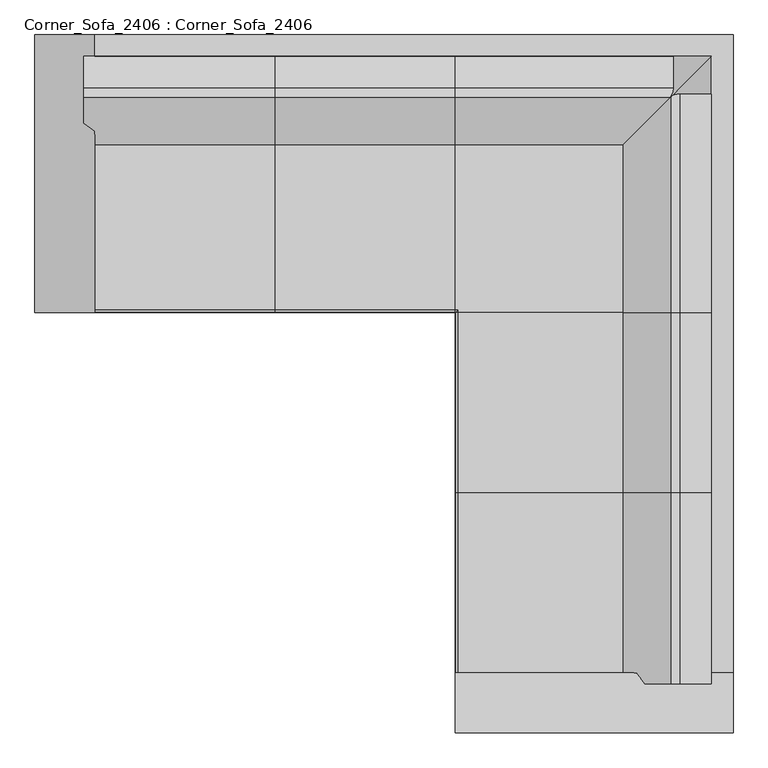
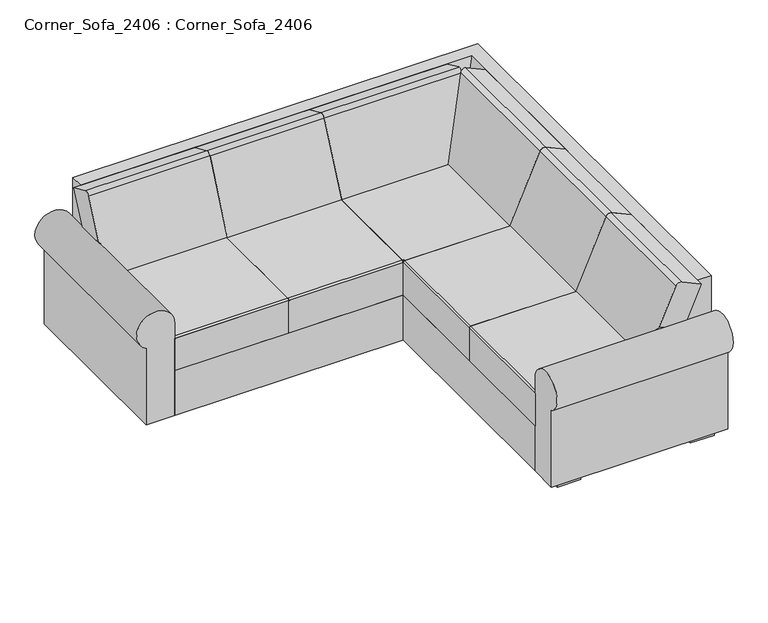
"""IFC4 building model written with IfcOpenShell, lengths in millimetres: furniture geometry, Corner_Sofa_2406 : Corner_Sofa_2406."""

from ifc_helpers import new_model, si_unit, point, frame, frame_2d, origin, origin_with_axes, place, context, project, spatial, polyline, circle_curve, ellipse_curve, trimmed, segment, composite_curve, outline, extrude, faceted_brep, source, transform, mapped, element, save
from ifc_brep_helpers import plane_surface, cylinder_surface, advanced_brep


def corner_sofa_2406_corner_sofa_2406_fdd71140(model_context):
    return source(origin(), model_context, "Body", "SolidModel", [
        extrude(outline(polyline([(-1068.5682719, -892.1095227), (-1195.5682719, -892.1095227), (-1195.5682719, -765.1095227), (-1068.5682719, -765.1095227), (-1068.5682719, -892.1095227)])), origin_with_axes(), (0.0, 0.0, 1.0), 50.8),
        extrude(outline(polyline([(-1068.5682719, -180.9095227), (-1195.5682719, -180.9095227), (-1195.5682719, -53.9095227), (-1068.5682719, -53.9095227), (-1068.5682719, -180.9095227)])), origin_with_axes(), (0.0, 0.0, 1.0), 50.8),
        extrude(outline(polyline([(900.5669616, -892.1095227), (900.5669616, -765.1095227), (1027.5669616, -765.1095227), (1027.5669616, -892.1095227), (900.5669616, -892.1095227)])), origin_with_axes(), (0.0, 0.0, 1.0), 50.8),
        extrude(outline(polyline([(900.5669616, -180.9095227), (900.5669616, -53.9095227), (1027.5669616, -53.9095227), (1027.5669616, -180.9095227), (900.5669616, -180.9095227)])), origin_with_axes(), (0.0, 0.0, 1.0), 50.8),
        extrude(outline(polyline([(189.3669616, -2150.0447561), (316.3669616, -2150.0447561), (316.3669616, -2277.0447561), (189.3669616, -2277.0447561), (189.3669616, -2150.0447561)])), origin_with_axes(), (0.0, 0.0, 1.0), 50.8),
        extrude(outline(polyline([(900.5669616, -2150.0447561), (1027.5669616, -2150.0447561), (1027.5669616, -2277.0447561), (900.5669616, -2277.0447561), (900.5669616, -2150.0447561)])), origin_with_axes(), (0.0, 0.0, 1.0), 50.8),
        extrude(outline(polyline([(189.3669616, -981.6447561), (316.3669616, -981.6447561), (316.3669616, -1108.6447561), (189.3669616, -1108.6447561), (189.3669616, -981.6447561)])), origin_with_axes(), (0.0, 0.0, 1.0), 50.8),
        extrude(outline(polyline([(900.5669616, -981.6447561), (1027.5669616, -981.6447561), (1027.5669616, -1108.6447561), (900.5669616, -1108.6447561), (900.5669616, -981.6447561)])), origin_with_axes(), (0.0, 0.0, 1.0), 50.8),
        advanced_brep(
        [(708.2115105, -370.9615105, 486.2298964), (708.2115105, -939.8, 486.2298964), (868.5771653, -939.8, 846.4170544), (869.4079619, -939.8, 848.2830543), (869.4079619, -210.0920381, 848.2830543), (870.5407312, -208.6322897, 850.8272957), (1006.5305764, -939.8, 812.8), (835.8338109, -939.8, 429.4087874), (835.8338109, -370.9615105, 429.4087874), (1006.5305764, -200.2647449, 812.8), (902.1123306, -200.2647449, 859.2899983), (900.2463308, -200.2647449, 860.120795), (900.2463308, -939.8, 860.120795), (902.1123306, -939.8, 859.2899983), (871.062652, -208.437348, 851.1195615)],
        [
            (0, 1),
            (1, 2),
            (2, 3),
            (3, 4),
            (4, 5, ellipse_curve(frame((864.577804, -188.2363817, 837.4343419), z_axis=(-0.9135454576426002, 0.0, 0.40673664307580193), x_axis=(0.40673664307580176, 0.0, 0.9135454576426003)), 26.7092211, 24.4000876)),
            (5, 0),
            (6, 7),
            (7, 8),
            (8, 9),
            (9, 6),
            (9, 10),
            (10, 11),
            (11, 12),
            (12, 13),
            (13, 6),
            (8, 0),
            (5, 14, ellipse_curve(frame((1023.9085595, -188.2363817, 837.4343419), z_axis=(-0.1532436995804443, 0.9263093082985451, -0.34419098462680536), x_axis=(0.9881884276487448, 0.14364777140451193, -0.05337554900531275)), 159.2240834, 24.4000876)),
            (14, 11, ellipse_curve(frame((891.2636183, -210.1804573, 837.4343419), z_axis=(-0.1532436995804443, 0.9263093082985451, -0.34419098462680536), x_axis=(-0.3767639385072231, -0.3767639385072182, -0.8462256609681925)), 26.341188, 24.4000876)),
            (7, 1),
            (12, 3, circle_curve(frame((891.2636183, -939.8, 837.4343419), z_axis=(0.0, -1.0, 0.0), x_axis=(-1.0, 0.0, 0.0)), 24.4000876)),
            (4, 14, ellipse_curve(frame((891.2636183, -188.2363817, 837.4343419), z_axis=(-0.7071067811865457, 0.7071067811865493, 0.0), x_axis=(0.7071067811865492, 0.7071067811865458, 0.0)), 34.5069348, 24.4000876)),
        ],
        [
            plane_surface(frame((878.908276, -329.4137794, 869.621109), z_axis=(-0.9135454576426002, 0.0, 0.40673664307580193), x_axis=(0.0, 1.0, 0.0))),
            plane_surface(frame((1006.5305764, -329.4137794, 812.8), z_axis=(0.9135454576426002, 0.0, -0.40673664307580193), x_axis=(0.0, -1.0, 0.0))),
            plane_surface(frame((878.908276, -939.8, 869.621109), z_axis=(0.4067366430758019, 0.0, 0.9135454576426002), x_axis=(0.9135454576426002, 0.0, -0.4067366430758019))),
            plane_surface(frame((878.908276, -200.2647449, 869.621109), z_axis=(-0.1532436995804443, 0.9263093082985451, -0.34419098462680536), x_axis=(0.9135454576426, 0.0, -0.4067366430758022))),
            plane_surface(frame((708.2115105, -370.9615105, 486.2298964), z_axis=(-0.4067366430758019, 0.0, -0.9135454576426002), x_axis=(0.9135454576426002, 0.0, -0.4067366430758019))),
            plane_surface(frame((708.2115105, -939.8, 486.2298964), z_axis=(0.0, -1.0000000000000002, 0.0), x_axis=(0.9135454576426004, 0.0, -0.40673664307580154))),
            cylinder_surface(frame((-1116.8137794, -188.2363817, 837.4343419), z_axis=(1.0, 0.0, 0.0), x_axis=(0.0, -1.0, 0.0)), 24.4000876),
            cylinder_surface(frame((891.2636183, -200.591724, 837.4343419), z_axis=(0.0, -1.0, 0.0), x_axis=(-1.0, 0.0, 0.0)), 24.4000876),
        ],
        [
            (0, [[1, 2, 3, 4, 5, 6]]),
            (1, [[7, 8, 9, 10]]),
            (2, [[-10, 11, 12, 13, 14, 15]]),
            (3, [[-9, 16, -6, 17, 18, -12, -11]]),
            (4, [[-1, -16, -8, 19]]),
            (5, [[-7, -15, -14, 20, -3, -2, -19]]),
            (6, [[21, -17, -5]]),
            (7, [[-21, -4, -20, -13, -18]]),
        ],
    ),
        advanced_brep(
        [(708.2115105, -939.0137794, 486.2298964), (708.2115105, -1549.4, 486.2298964), (868.5771653, -1549.4, 846.4170544), (869.4079619, -1549.4, 848.2830543), (869.4079619, -939.0137794, 848.2830543), (868.5771653, -939.0137794, 846.4170544), (1006.5305764, -939.0137794, 812.8), (1006.5305764, -1549.4, 812.8), (835.8338109, -1549.4, 429.4087874), (835.8338109, -939.0137794, 429.4087874), (900.2463308, -939.0137794, 860.120795), (902.1123306, -939.0137794, 859.2899983), (902.1123306, -1549.4, 859.2899983), (900.2463308, -1549.4, 860.120795)],
        [
            (0, 1),
            (1, 2),
            (2, 3),
            (3, 4),
            (4, 5),
            (5, 0),
            (6, 7),
            (7, 8),
            (8, 9),
            (9, 6),
            (9, 0),
            (4, 10, circle_curve(frame((891.2636183, -939.0137794, 837.4343419), z_axis=(0.0, 1.0, 0.0), x_axis=(-1.0, 0.0, 0.0)), 24.4000876)),
            (10, 11),
            (11, 6),
            (8, 1),
            (7, 12),
            (12, 13),
            (13, 3, circle_curve(frame((891.2636183, -1549.4, 837.4343419), z_axis=(0.0, -1.0, 0.0), x_axis=(-1.0, 0.0, 0.0)), 24.4000876)),
            (10, 13),
        ],
        [
            plane_surface(frame((708.2115105, -939.0137794, 486.2298964), z_axis=(-0.9135454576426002, 0.0, 0.40673664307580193), x_axis=(-0.40673664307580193, 0.0, -0.9135454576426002))),
            plane_surface(frame((835.8338109, -939.0137794, 429.4087874), z_axis=(0.9135454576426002, 0.0, -0.40673664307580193), x_axis=(0.40673664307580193, 0.0, 0.9135454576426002))),
            plane_surface(frame((878.908276, -939.0137794, 869.621109), z_axis=(0.0, 1.0, 0.0), x_axis=(0.9135454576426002, 0.0, -0.4067366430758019))),
            plane_surface(frame((708.2115105, -939.0137794, 486.2298964), z_axis=(-0.4067366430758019, 0.0, -0.9135454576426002), x_axis=(0.9135454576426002, 0.0, -0.4067366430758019))),
            plane_surface(frame((708.2115105, -1549.4, 486.2298964), z_axis=(0.0, -1.0, 0.0), x_axis=(0.9135454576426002, 0.0, -0.4067366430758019))),
            plane_surface(frame((878.908276, -1549.4, 869.621109), z_axis=(0.40673664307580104, 0.0, 0.9135454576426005), x_axis=(0.9135454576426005, 0.0, -0.40673664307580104))),
            cylinder_surface(frame((891.2636183, -200.591724, 837.4343419), z_axis=(0.0, -1.0, 0.0), x_axis=(-1.0, 0.0, 0.0)), 24.4000876),
        ],
        [
            (0, [[1, 2, 3, 4, 5, 6]]),
            (1, [[7, 8, 9, 10]]),
            (2, [[-10, 11, -6, -5, 12, 13, 14]]),
            (3, [[-1, -11, -9, 15]]),
            (4, [[-8, 16, 17, 18, -3, -2, -15]]),
            (5, [[-7, -14, -13, 19, -17, -16]]),
            (6, [[-4, -18, -19, -12]]),
        ],
    ),
        advanced_brep(
        [(708.2115105, -1548.6137794, 486.2298964), (708.2115105, -2159.0, 486.2298964), (754.2421559, -2159.0, 589.6164189), (780.5292856, -2196.3137794, 648.6582788), (868.5771653, -2196.3137794, 846.4170544), (869.4079619, -2196.3137794, 848.2830543), (869.4079619, -1548.6137794, 848.2830543), (868.5771653, -1548.6137794, 846.4170544), (1006.5305764, -1548.6137794, 812.8), (1006.5305764, -2196.3137794, 812.8), (908.151586, -2196.3137794, 591.8371697), (881.8644564, -2159.0, 532.7953098), (835.8338109, -2159.0, 429.4087874), (835.8338109, -1548.6137794, 429.4087874), (900.2463308, -1548.6137794, 860.120795), (902.1123306, -1548.6137794, 859.2899983), (902.1123306, -2196.3137794, 859.2899983), (900.2463308, -2196.3137794, 860.120795)],
        [
            (0, 1),
            (1, 2),
            (2, 3),
            (3, 4),
            (4, 5),
            (5, 6),
            (6, 7),
            (7, 0),
            (8, 9),
            (9, 10),
            (10, 11),
            (11, 12),
            (12, 13),
            (13, 8),
            (13, 0),
            (6, 14, circle_curve(frame((891.2636183, -1548.6137794, 837.4343419), z_axis=(0.0, 1.0, 0.0), x_axis=(-1.0, 0.0, 0.0)), 24.4000876)),
            (14, 15),
            (15, 8),
            (12, 1),
            (11, 2),
            (10, 3),
            (9, 16),
            (16, 17),
            (17, 5, circle_curve(frame((891.2636183, -2196.3137794, 837.4343419), z_axis=(0.0, -1.0, 0.0), x_axis=(-1.0, 0.0, 0.0)), 24.4000876)),
            (14, 17),
        ],
        [
            plane_surface(frame((708.2115105, -1548.6137794, 486.2298964), z_axis=(-0.9135454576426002, 0.0, 0.40673664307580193), x_axis=(-0.40673664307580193, 0.0, -0.9135454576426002))),
            plane_surface(frame((835.8338109, -1548.6137794, 429.4087874), z_axis=(0.9135454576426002, 0.0, -0.40673664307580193), x_axis=(0.40673664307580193, 0.0, 0.9135454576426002))),
            plane_surface(frame((878.908276, -1548.6137794, 869.621109), z_axis=(0.0, 1.0, 0.0), x_axis=(0.9135454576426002, 0.0, -0.4067366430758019))),
            plane_surface(frame((708.2115105, -1548.6137794, 486.2298964), z_axis=(-0.4067366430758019, 0.0, -0.9135454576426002), x_axis=(0.9135454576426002, 0.0, -0.4067366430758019))),
            plane_surface(frame((708.2115105, -2159.0, 486.2298964), z_axis=(0.0, -1.0, 0.0), x_axis=(0.9135454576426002, 0.0, -0.4067366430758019))),
            plane_surface(frame((754.2421559, -2159.0, 589.6164189), z_axis=(-0.20336832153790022, -0.8660254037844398, -0.4567727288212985), x_axis=(0.9135454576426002, 0.0, -0.4067366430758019))),
            plane_surface(frame((780.5292856, -2196.3137794, 648.6582788), z_axis=(0.0, -1.0, 0.0), x_axis=(0.9135454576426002, 0.0, -0.4067366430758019))),
            plane_surface(frame((878.908276, -2196.3137794, 869.621109), z_axis=(0.4067366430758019, 0.0, 0.9135454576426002), x_axis=(0.9135454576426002, 0.0, -0.4067366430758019))),
            cylinder_surface(frame((891.2636183, -200.591724, 837.4343419), z_axis=(0.0, -1.0, 0.0), x_axis=(-1.0, 0.0, 0.0)), 24.4000876),
        ],
        [
            (0, [[1, 2, 3, 4, 5, 6, 7, 8]]),
            (1, [[9, 10, 11, 12, 13, 14]]),
            (2, [[-14, 15, -8, -7, 16, 17, 18]]),
            (3, [[-1, -15, -13, 19]]),
            (4, [[-2, -19, -12, 20]]),
            (5, [[-3, -20, -11, 21]]),
            (6, [[-10, 22, 23, 24, -5, -4, -21]]),
            (7, [[-9, -18, -17, 25, -23, -22]]),
            (8, [[-6, -24, -25, -16]]),
        ],
    ),
        advanced_brep(
        [(139.7, -371.2884895, 486.2298964), (706.2350262, -371.2884895, 486.2298964), (866.600681, -210.9228347, 846.4170544), (867.4314777, -210.0920381, 848.2830543), (139.7, -210.0920381, 848.2830543), (139.7, -210.9228347, 846.4170544), (139.7, -72.9694236, 812.8), (876.9317918, -72.9694236, 812.8), (706.2350262, -243.6661891, 429.4087874), (139.7, -243.6661891, 429.4087874), (139.7, -179.2536692, 860.120795), (139.7, -177.3876694, 859.2899983), (876.9317918, -177.3876694, 859.2899983), (876.9317918, -179.2536692, 860.120795)],
        [
            (0, 1),
            (1, 2),
            (2, 3),
            (3, 4),
            (4, 5),
            (5, 0),
            (6, 7),
            (7, 8),
            (8, 9),
            (9, 6),
            (9, 0),
            (4, 10, circle_curve(frame((139.7, -188.2363817, 837.4343419), z_axis=(-1.0, 0.0, 0.0), x_axis=(0.0, -1.0, 0.0)), 24.4000876)),
            (10, 11),
            (11, 6),
            (8, 1),
            (7, 12),
            (12, 13),
            (13, 3, ellipse_curve(frame((867.0160793, -188.2363817, 837.4343419), z_axis=(0.9263093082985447, -0.15324369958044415, -0.34419098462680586), x_axis=(0.3767639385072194, 0.37676393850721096, 0.8462256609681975)), 26.341188, 24.4000876)),
            (10, 13),
        ],
        [
            plane_surface(frame((139.7, -325.2578441, 589.6164189), z_axis=(0.0, -0.9135454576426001, 0.40673664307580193), x_axis=(0.0, -0.40673664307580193, -0.9135454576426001))),
            plane_surface(frame((139.7, -197.6355436, 532.7953098), z_axis=(0.0, 0.9135454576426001, -0.40673664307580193), x_axis=(0.0, 0.40673664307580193, 0.9135454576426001))),
            plane_surface(frame((139.7, -200.591724, 869.621109), z_axis=(-1.0000000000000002, 0.0, 0.0), x_axis=(0.0, 0.9135454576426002, -0.406736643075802))),
            plane_surface(frame((139.7, -371.2884895, 486.2298964), z_axis=(0.0, -0.406736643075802, -0.9135454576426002), x_axis=(0.0, 0.9135454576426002, -0.406736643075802))),
            plane_surface(frame((706.2350262, -371.2884895, 486.2298964), z_axis=(0.926309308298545, -0.15324369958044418, -0.3441909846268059), x_axis=(0.0, 0.9135454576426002, -0.406736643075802))),
            plane_surface(frame((876.9317918, -200.591724, 869.621109), z_axis=(0.0, 0.406736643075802, 0.9135454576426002), x_axis=(0.0, 0.9135454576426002, -0.406736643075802))),
            cylinder_surface(frame((-1116.8137794, -188.2363817, 837.4343419), z_axis=(1.0, 0.0, 0.0), x_axis=(0.0, -1.0, 0.0)), 24.4000876),
        ],
        [
            (0, [[1, 2, 3, 4, 5, 6]]),
            (1, [[7, 8, 9, 10]]),
            (2, [[-10, 11, -6, -5, 12, 13, 14]]),
            (3, [[-1, -11, -9, 15]]),
            (4, [[-8, 16, 17, 18, -3, -2, -15]]),
            (5, [[-7, -14, -13, 19, -17, -16]]),
            (6, [[-4, -18, -19, -12]]),
        ],
    ),
        advanced_brep(
        [(-469.9, -371.2884895, 486.2298964), (140.4862206, -371.2884895, 486.2298964), (140.4862206, -210.9228347, 846.4170544), (140.4862206, -210.0920381, 848.2830543), (-469.9, -210.0920381, 848.2830543), (-469.9, -210.9228347, 846.4170544), (140.4862206, -72.9694236, 812.8), (140.4862206, -243.6661891, 429.4087874), (-469.9, -243.6661891, 429.4087874), (-469.9, -72.9694236, 812.8), (-469.9, -177.3876694, 859.2899983), (-469.9, -179.2536692, 860.120795), (140.4862206, -179.2536692, 860.120795), (140.4862206, -177.3876694, 859.2899983)],
        [
            (0, 1),
            (1, 2),
            (2, 3),
            (3, 4),
            (4, 5),
            (5, 0),
            (6, 7),
            (7, 8),
            (8, 9),
            (9, 6),
            (9, 10),
            (10, 11),
            (11, 12),
            (12, 13),
            (13, 6),
            (8, 0),
            (4, 11, circle_curve(frame((-469.9, -188.2363817, 837.4343419), z_axis=(-1.0, 0.0, 0.0), x_axis=(0.0, -1.0, 0.0)), 24.4000876)),
            (7, 1),
            (12, 3, circle_curve(frame((140.4862206, -188.2363817, 837.4343419), z_axis=(1.0, 0.0, 0.0), x_axis=(0.0, -1.0, 0.0)), 24.4000876)),
        ],
        [
            plane_surface(frame((140.4862206, -200.591724, 869.621109), z_axis=(0.0, -0.9135454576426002, 0.40673664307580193), x_axis=(-1.0, 0.0, 0.0))),
            plane_surface(frame((140.4862206, -72.9694236, 812.8), z_axis=(0.0, 0.9135454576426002, -0.40673664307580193), x_axis=(1.0, 0.0, 0.0))),
            plane_surface(frame((140.4862206, -200.591724, 869.621109), z_axis=(0.0, 0.4067366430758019, 0.9135454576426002), x_axis=(0.0, 0.9135454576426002, -0.4067366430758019))),
            plane_surface(frame((-469.9, -200.591724, 869.621109), z_axis=(-1.0, 0.0, 0.0), x_axis=(0.0, 0.9135454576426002, -0.4067366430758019))),
            plane_surface(frame((-469.9, -371.2884895, 486.2298964), z_axis=(0.0, -0.4067366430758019, -0.9135454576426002), x_axis=(0.0, 0.9135454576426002, -0.4067366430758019))),
            plane_surface(frame((140.4862206, -371.2884895, 486.2298964), z_axis=(1.0, 0.0, 0.0), x_axis=(0.0, 0.9135454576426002, -0.4067366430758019))),
            cylinder_surface(frame((-1116.8137794, -188.2363817, 837.4343419), z_axis=(1.0, 0.0, 0.0), x_axis=(0.0, -1.0, 0.0)), 24.4000876),
        ],
        [
            (0, [[1, 2, 3, 4, 5, 6]]),
            (1, [[7, 8, 9, 10]]),
            (2, [[-10, 11, 12, 13, 14, 15]]),
            (3, [[-9, 16, -6, -5, 17, -12, -11]]),
            (4, [[-1, -16, -8, 18]]),
            (5, [[-7, -15, -14, 19, -3, -2, -18]]),
            (6, [[-4, -19, -13, -17]]),
        ],
    ),
        advanced_brep(
        [(-1116.8137794, -298.9707144, 648.6582788), (-1079.5, -325.2578441, 589.6164189), (-1079.5, -371.2884895, 486.2298964), (-469.1137794, -371.2884895, 486.2298964), (-469.1137794, -210.9228347, 846.4170544), (-469.1137794, -210.0920381, 848.2830543), (-1116.8137794, -210.0920381, 848.2830543), (-1116.8137794, -210.9228347, 846.4170544), (-469.1137794, -72.9694236, 812.8), (-469.1137794, -243.6661891, 429.4087874), (-1079.5, -243.6661891, 429.4087874), (-1079.5, -197.6355436, 532.7953098), (-1116.8137794, -171.348414, 591.8371697), (-1116.8137794, -72.9694236, 812.8), (-1116.8137794, -177.3876694, 859.2899983), (-1116.8137794, -179.2536692, 860.120795), (-469.1137794, -179.2536692, 860.120795), (-469.1137794, -177.3876694, 859.2899983)],
        [
            (0, 1),
            (1, 2),
            (2, 3),
            (3, 4),
            (4, 5),
            (5, 6),
            (6, 7),
            (7, 0),
            (8, 9),
            (9, 10),
            (10, 11),
            (11, 12),
            (12, 13),
            (13, 8),
            (13, 14),
            (14, 15),
            (15, 16),
            (16, 17),
            (17, 8),
            (12, 0),
            (6, 15, circle_curve(frame((-1116.8137794, -188.2363817, 837.4343419), z_axis=(-1.0, 0.0, 0.0), x_axis=(0.0, -1.0, 0.0)), 24.4000876)),
            (11, 1),
            (10, 2),
            (9, 3),
            (16, 5, circle_curve(frame((-469.1137794, -188.2363817, 837.4343419), z_axis=(1.0, 0.0, 0.0), x_axis=(0.0, -1.0, 0.0)), 24.4000876)),
        ],
        [
            plane_surface(frame((-469.1137794, -200.591724, 869.621109), z_axis=(0.0, -0.9135454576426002, 0.40673664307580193), x_axis=(-1.0, 0.0, 0.0))),
            plane_surface(frame((-469.1137794, -72.9694236, 812.8), z_axis=(0.0, 0.9135454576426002, -0.40673664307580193), x_axis=(1.0, 0.0, 0.0))),
            plane_surface(frame((-469.1137794, -200.591724, 869.621109), z_axis=(0.0, 0.4067366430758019, 0.9135454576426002), x_axis=(0.0, 0.9135454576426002, -0.4067366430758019))),
            plane_surface(frame((-1116.8137794, -200.591724, 869.621109), z_axis=(-1.0, 0.0, 0.0), x_axis=(0.0, 0.9135454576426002, -0.4067366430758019))),
            plane_surface(frame((-1116.8137794, -298.9707144, 648.6582788), z_axis=(-0.866025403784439, -0.20336832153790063, -0.45677272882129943), x_axis=(0.0, 0.9135454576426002, -0.4067366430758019))),
            plane_surface(frame((-1079.5, -325.2578441, 589.6164189), z_axis=(-1.0, 0.0, 0.0), x_axis=(0.0, 0.9135454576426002, -0.4067366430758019))),
            plane_surface(frame((-1079.5, -371.2884895, 486.2298964), z_axis=(0.0, -0.40673664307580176, -0.9135454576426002), x_axis=(0.0, 0.9135454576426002, -0.40673664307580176))),
            plane_surface(frame((-469.1137794, -371.2884895, 486.2298964), z_axis=(1.0, 0.0, 0.0), x_axis=(0.0, 0.9135454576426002, -0.4067366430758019))),
            cylinder_surface(frame((-1116.8137794, -188.2363817, 837.4343419), z_axis=(1.0, 0.0, 0.0), x_axis=(0.0, -1.0, 0.0)), 24.4000876),
        ],
        [
            (0, [[1, 2, 3, 4, 5, 6, 7, 8]]),
            (1, [[9, 10, 11, 12, 13, 14]]),
            (2, [[-14, 15, 16, 17, 18, 19]]),
            (3, [[-13, 20, -8, -7, 21, -16, -15]]),
            (4, [[-1, -20, -12, 22]]),
            (5, [[-2, -22, -11, 23]]),
            (6, [[-3, -23, -10, 24]]),
            (7, [[-9, -19, -18, 25, -5, -4, -24]]),
            (8, [[-6, -25, -17, -21]]),
        ],
    ),
        extrude(outline(composite_curve([segment(polyline([(292.1, 139.7), (292.1, 749.3), (482.6, 749.3), (482.6, 148.8937864)]), True, "CONTINUOUS"), segment(trimmed(circle_curve(frame_2d((470.460651, 152.6255696)), 12.7), [point((482.6, 148.8937864))], [point((474.1924341, 140.4862206))], False, "CARTESIAN"), True, "CONTINUOUS"), segment(polyline([(474.1924341, 140.4862206), (474.1924341, 139.7), (292.1, 139.7)]), True, "CONTINUOUS")], self_intersect=False)), frame((0.0, -1549.4, 0.0), z_axis=(0.0, 1.0, 0.0), x_axis=(0.0, 0.0, 1.0)), (0.0, 0.0, 1.0), 609.6),
        extrude(outline(composite_curve([segment(polyline([(292.1, 139.7), (292.1, 749.3), (482.6, 749.3), (482.6, 148.8937864)]), True, "CONTINUOUS"), segment(trimmed(circle_curve(frame_2d((470.460651, 152.6255696)), 12.7), [point((482.6, 148.8937864))], [point((474.1924341, 140.4862206))], False, "CARTESIAN"), True, "CONTINUOUS"), segment(polyline([(474.1924341, 140.4862206), (474.1924341, 139.7), (292.1, 139.7)]), True, "CONTINUOUS")], self_intersect=False)), frame((0.0, -2159.0, 0.0), z_axis=(0.0, 1.0, 0.0), x_axis=(0.0, 0.0, 1.0)), (0.0, 0.0, 1.0), 609.6),
        advanced_brep(
        [(749.3, -939.8, 482.6), (749.3, -330.2, 482.6), (139.7, -330.2, 482.6), (139.7, -930.6062136, 482.6), (148.8937864, -930.6062136, 482.6), (148.8937864, -939.8, 482.6), (749.3, -939.8, 292.1), (139.7, -939.8, 292.1), (139.7, -330.2, 292.1), (749.3, -330.2, 292.1), (139.7, -939.8, 474.1924341), (139.7, -939.0137794, 474.1924341), (140.4862206, -939.8, 474.1924341), (140.4862206, -939.0137794, 474.1924341)],
        [
            (0, 1),
            (1, 2),
            (2, 3),
            (3, 4),
            (4, 5),
            (5, 0),
            (6, 7),
            (7, 8),
            (8, 9),
            (9, 6),
            (0, 6),
            (9, 1),
            (8, 2),
            (7, 10),
            (10, 11),
            (11, 3, circle_curve(frame((139.7, -926.8744304, 470.460651), z_axis=(-1.0, 0.0, 0.0), x_axis=(0.0, -1.0, 0.0)), 12.7)),
            (5, 12, circle_curve(frame((152.6255696, -939.8, 470.460651), z_axis=(0.0, -1.0, 0.0), x_axis=(-1.0, 0.0, 0.0)), 12.7)),
            (12, 10),
            (13, 4, ellipse_curve(frame((152.6255696, -926.8744304, 470.460651), z_axis=(-0.7071067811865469, 0.7071067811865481, 0.0), x_axis=(0.7071067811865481, 0.7071067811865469, 0.0)), 17.9605122, 12.7)),
            (11, 13),
            (12, 13),
        ],
        [
            plane_surface(frame((749.3, -939.8, 482.6), z_axis=(0.0, 0.0, 1.0), x_axis=(0.0, 1.0, 0.0))),
            plane_surface(frame((749.3, -939.8, 292.1), z_axis=(0.0, 0.0, -1.0), x_axis=(0.0, -1.0, 0.0))),
            plane_surface(frame((749.3, -939.8, 482.6), z_axis=(1.0, 0.0, 0.0), x_axis=(0.0, 0.0, -1.0))),
            plane_surface(frame((749.3, -330.2, 482.6), z_axis=(0.0, 1.0, 0.0), x_axis=(0.0, 0.0, -1.0))),
            plane_surface(frame((139.7, -330.2, 482.6), z_axis=(-1.0, 0.0, 0.0), x_axis=(0.0, 0.0, -1.0))),
            plane_surface(frame((139.7, -939.8, 482.6), z_axis=(0.0, -1.0, 0.0), x_axis=(0.0, 0.0, -1.0))),
            cylinder_surface(frame((-1079.5, -926.8744304, 470.460651), z_axis=(1.0, 0.0, 0.0), x_axis=(0.0, -1.0, 0.0)), 12.7),
            plane_surface(frame((-1079.5, -939.0137794, 474.1924341), z_axis=(0.0, 0.0, 1.0), x_axis=(1.0, 0.0, 0.0))),
            cylinder_surface(frame((152.6255696, -939.8, 470.460651), z_axis=(0.0, -1.0, 0.0), x_axis=(-1.0, 0.0, 0.0)), 12.7),
        ],
        [
            (0, [[1, 2, 3, 4, 5, 6]]),
            (1, [[7, 8, 9, 10]]),
            (2, [[-1, 11, -10, 12]]),
            (3, [[-2, -12, -9, 13]]),
            (4, [[-8, 14, 15, 16, -3, -13]]),
            (5, [[-7, -11, -6, 17, 18, -14]]),
            (6, [[19, -4, -16, 20]]),
            (7, [[21, -20, -15, -18]]),
            (8, [[-19, -21, -17, -5]]),
        ],
    ),
        extrude(outline(composite_curve([segment(polyline([(-330.2, 292.1), (-939.8, 292.1), (-939.8, 474.1924341), (-939.0137794, 474.1924341)]), True, "CONTINUOUS"), segment(trimmed(circle_curve(frame_2d((-926.8744304, 470.460651)), 12.7), [point((-939.0137794, 474.1924341))], [point((-930.6062136, 482.6))], False, "CARTESIAN"), True, "CONTINUOUS"), segment(polyline([(-930.6062136, 482.6), (-330.2, 482.6), (-330.2, 292.1)]), True, "CONTINUOUS")], self_intersect=False)), frame((-469.9, 0.0, 0.0), z_axis=(1.0, 0.0, 0.0), x_axis=(0.0, 1.0, 0.0)), (0.0, 0.0, 1.0), 609.6),
        extrude(outline(composite_curve([segment(polyline([(-330.2, 292.1), (-939.8, 292.1), (-939.8, 474.1924341), (-939.0137794, 474.1924341)]), True, "CONTINUOUS"), segment(trimmed(circle_curve(frame_2d((-926.8744304, 470.460651)), 12.7), [point((-939.0137794, 474.1924341))], [point((-930.6062136, 482.6))], False, "CARTESIAN"), True, "CONTINUOUS"), segment(polyline([(-930.6062136, 482.6), (-330.2, 482.6), (-330.2, 292.1)]), True, "CONTINUOUS")], self_intersect=False)), frame((-1079.5, 0.0, 0.0), z_axis=(1.0, 0.0, 0.0), x_axis=(0.0, 1.0, 0.0)), (0.0, 0.0, 1.0), 609.6),
        advanced_brep(
        [(1079.5, -2159.0, 558.8), (1079.5, -2311.4, 470.811819), (1079.5, -2311.4, 38.1), (1079.5, -2159.0, 38.1), (139.7, -2159.0, 38.1), (139.7, -2311.4, 38.1), (139.7, -2311.4, 470.811819), (139.7, -2159.0, 558.8), (139.7, -2159.0, 483.73201), (139.7, -2159.0, 474.1924341)],
        [
            (0, 1, circle_curve(frame((1079.5, -2260.6, 558.8), z_axis=(1.0, 0.0, 0.0), x_axis=(0.0, 1.0, 0.0)), 101.6)),
            (1, 2),
            (2, 3),
            (3, 0),
            (4, 5),
            (5, 6),
            (6, 7, circle_curve(frame((139.7, -2260.6, 558.8), z_axis=(-1.0, 0.0, 0.0), x_axis=(0.0, 1.0, 0.0)), 101.6)),
            (7, 8),
            (8, 9),
            (9, 4),
            (0, 7),
            (6, 1),
            (5, 2),
            (4, 3),
        ],
        [
            plane_surface(frame((1079.5, -2159.0, 0.0), z_axis=(1.0, 0.0, 0.0), x_axis=(0.0, 0.0, 1.0))),
            plane_surface(frame((139.7, -2159.0, 0.0), z_axis=(-1.0, 0.0, 0.0), x_axis=(0.0, 0.0, 1.0))),
            cylinder_surface(frame((1079.5, -2260.6, 558.8), z_axis=(1.0, 0.0, 0.0), x_axis=(0.0, 1.0, 0.0)), 101.6),
            plane_surface(frame((1079.5, -2311.4, 470.811819), z_axis=(0.0, -1.0, 0.0), x_axis=(-1.0, 0.0, 0.0))),
            plane_surface(frame((1079.5, -2311.4, 38.1), z_axis=(0.0, 0.0, -1.0), x_axis=(-1.0, 0.0, 0.0))),
            plane_surface(frame((1079.5, -2159.0, 38.1), z_axis=(0.0, 1.0, 0.0), x_axis=(-1.0, 0.0, 0.0))),
        ],
        [
            (0, [[1, 2, 3, 4]]),
            (1, [[5, 6, 7, 8, 9, 10]]),
            (2, [[-1, 11, -7, 12]]),
            (3, [[-2, -12, -6, 13]]),
            (4, [[-3, -13, -5, 14]]),
            (5, [[-4, -14, -10, -9, -8, -11]]),
        ],
    ),
        advanced_brep(
        [(-1079.5, 0.0, 558.8), (-1079.5, 0.0, 38.1), (-1231.9, 0.0, 38.1), (-1231.9, 0.0, 470.811819), (-1079.5, -939.8, 558.8), (-1231.9, -939.8, 470.811819), (-1231.9, -939.8, 38.1), (-1079.5, -939.8, 38.1), (-1079.5, -939.8, 474.1924341), (-1079.5, -939.8, 483.73201)],
        [
            (0, 1),
            (1, 2),
            (2, 3),
            (3, 0, circle_curve(frame((-1181.1, 0.0, 558.8), z_axis=(0.0, 1.0, 0.0), x_axis=(1.0, 0.0, 0.0)), 101.6)),
            (4, 5, circle_curve(frame((-1181.1, -939.8, 558.8), z_axis=(0.0, -1.0, 0.0), x_axis=(1.0, 0.0, 0.0)), 101.6)),
            (5, 6),
            (6, 7),
            (7, 8),
            (8, 9),
            (9, 4),
            (0, 4),
            (7, 1),
            (6, 2),
            (5, 3),
        ],
        [
            plane_surface(frame((-1079.5, 0.0, 0.0), z_axis=(0.0, 1.0, 0.0), x_axis=(0.0, 0.0, 1.0))),
            plane_surface(frame((-1079.5, -939.8, 0.0), z_axis=(0.0, -1.0, 0.0), x_axis=(0.0, 0.0, 1.0))),
            plane_surface(frame((-1079.5, 0.0, 558.8), z_axis=(1.0, 0.0, 0.0), x_axis=(0.0, -1.0, 0.0))),
            plane_surface(frame((-1079.5, 0.0, 38.1), z_axis=(0.0, 0.0, -1.0), x_axis=(0.0, -1.0, 0.0))),
            plane_surface(frame((-1231.9, 0.0, 38.1), z_axis=(-1.0, 0.0, 0.0), x_axis=(0.0, -1.0, 0.0))),
            cylinder_surface(frame((-1181.1, 0.0, 558.8), z_axis=(0.0, 1.0, 0.0), x_axis=(1.0, 0.0, 0.0)), 101.6),
        ],
        [
            (0, [[1, 2, 3, 4]]),
            (1, [[5, 6, 7, 8, 9, 10]]),
            (2, [[-1, 11, -10, -9, -8, 12]]),
            (3, [[-2, -12, -7, 13]]),
            (4, [[-3, -13, -6, 14]]),
            (5, [[-4, -14, -5, -11]]),
        ],
    ),
        faceted_brep([(-1079.5, -939.8, 38.1), (-1079.5, -939.8, 292.1), (-1079.5, -304.8, 292.1), (-1079.5, -72.9694236, 812.8), (-1079.5, 0.0, 812.8), (-1079.5, 0.0, 38.1), (139.7, -939.8, 38.1), (139.7, -939.8, 292.1), (139.7, -2159.0, 292.1), (774.7, -2159.0, 292.1), (774.7, -304.8, 292.1), (1006.5305764, -72.9694236, 812.8), (1006.5305764, -2159.0, 812.8), (1079.5, -2159.0, 812.8), (1079.5, 0.0, 812.8), (1079.5, 0.0, 38.1), (1079.5, -2159.0, 38.1), (139.7, -2159.0, 38.1)], [[[0, 1, 2, 3, 4, 5]], [[1, 0, 6, 7]], [[2, 1, 7, 8, 9, 10]], [[3, 2, 10, 11]], [[4, 3, 11, 12, 13, 14]], [[5, 4, 14, 15]], [[0, 5, 15, 16, 17, 6]], [[9, 8, 17, 16, 13, 12]], [[7, 6, 17, 8]], [[10, 9, 12, 11]], [[14, 13, 16, 15]]]),
    ])


if __name__ == "__main__":
    model = new_model("IFC4")
    model_context = context("Model", 3, world=origin())
    ifc_project = project(units=[si_unit("LENGTHUNIT", "METRE", prefix="MILLI")], contexts=[model_context])
    site = spatial("IfcSite", under=ifc_project)
    building = spatial("IfcBuilding", under=site)
    placement = place(None, origin())
    corner_sofa_2406_corner_sofa_2406_shape = corner_sofa_2406_corner_sofa_2406_fdd71140(model_context)
    element("IfcFurniture", 1, ObjectType="Corner_Sofa_2406 : Corner_Sofa_2406", at=placement, inside=building, context=model_context, shape_type="MappedRepresentation", body=[
        mapped(corner_sofa_2406_corner_sofa_2406_shape, transform((0.0, 0.0, 0.0), x_axis=(1.0, 0.0, 0.0), y_axis=(0.0, 1.0, 0.0), z_axis=(0.0, 0.0, 1.0))),
    ])
    save(model, "model.ifc")
